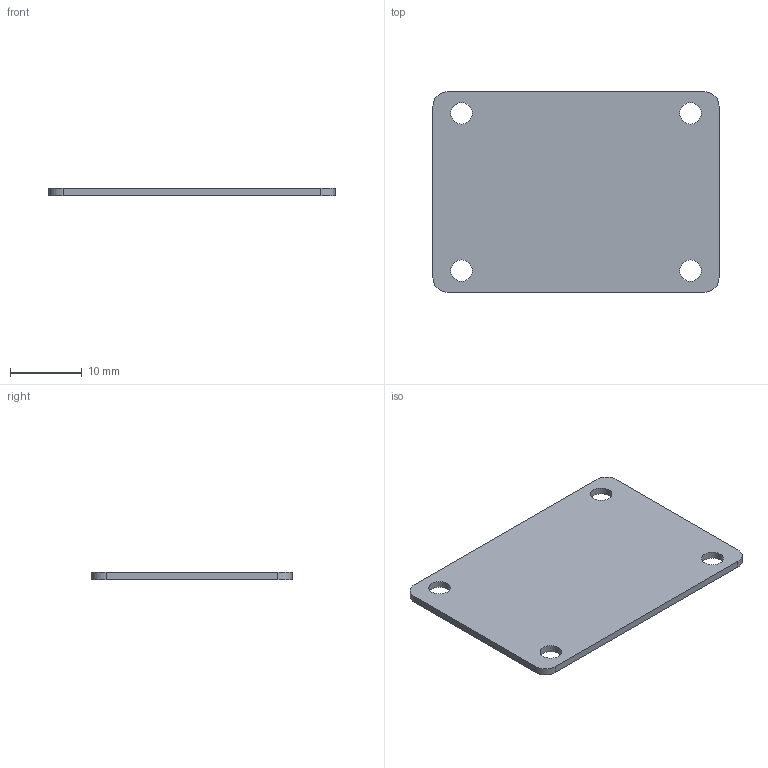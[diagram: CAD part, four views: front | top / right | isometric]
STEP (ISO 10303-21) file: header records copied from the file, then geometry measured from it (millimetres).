
FILE_DESCRIPTION(/* description */ (''),/* implementation_level */ '2;1');
FILE_NAME(/* name */ 'p_Aethalometer-Flachdichtung_A-01.stp',/* time_stamp */ '2020-02-07T10:54:48+01:00',/* author */ (''),/* organization */ (''),/* preprocessor_version */ 'ST-DEVELOPER v16.7',/* originating_system */ 'SIEMENS PLM Software NX 12.0',/* authorisation */ '');
FILE_SCHEMA (('AUTOMOTIVE_DESIGN { 1 0 10303 214 3 1 1 1 }'));
Length unit declared in the file: millimetre
Products named in the file (1): p_Aethalometer-Flachdichtung_A-01
Bounding box: 40 x 28 x 1 mm (x, y, z)
Surface area: 4693.7 mm2
Topology: 2 solids, 2 shells, 28 faces, 88 edges, 73 vertices
Faces by surface type: cylinder 16, plane 12
Full cylindrical faces by diameter (mm): 3 x8
Entity records: 1013 total; most frequent: DIRECTION 174, CARTESIAN_POINT 154, ORIENTED_EDGE 128, AXIS2_PLACEMENT_3D 69, EDGE_CURVE 64, EDGE_LOOP 52, VERTEX_POINT 48, CIRCLE 40
